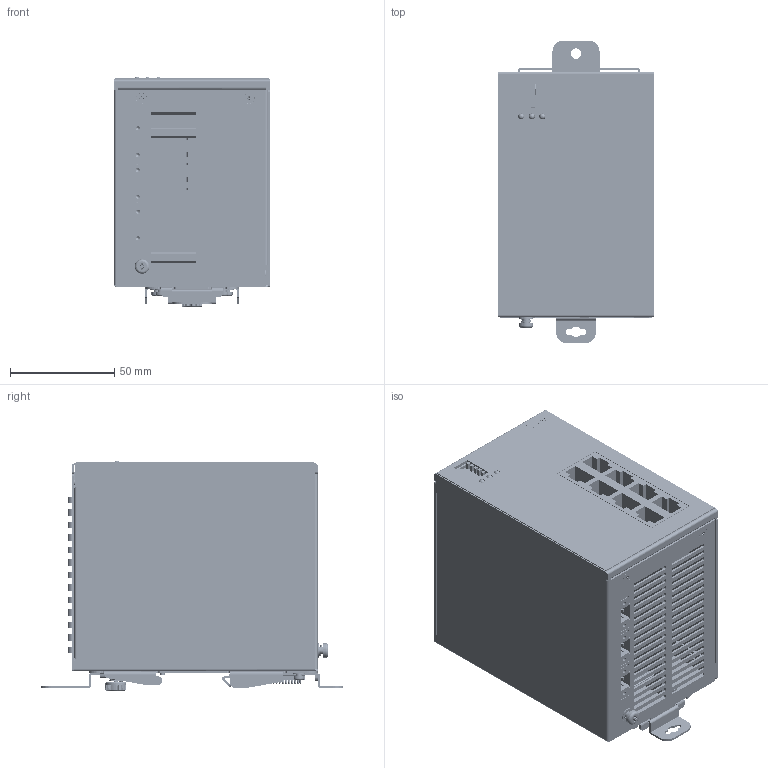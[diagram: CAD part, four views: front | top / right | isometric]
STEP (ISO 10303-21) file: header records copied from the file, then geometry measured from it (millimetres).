
FILE_DESCRIPTION((''),'2;1');
FILE_NAME('DVS-008W01_ASM','2014-12-08T',('ANDREW.AS.SUN'),(''),'PRO/ENGINEER BY PARAMETRIC TECHNOLOGY CORPORATION, 2010280','PRO/ENGINEER BY PARAMETRIC TECHNOLOGY CORPORATION, 2010280','');
FILE_SCHEMA(('CONFIG_CONTROL_DESIGN'));
Products named in the file (28): BASE-8P; COVER-8P; PANEL-8P; PCB-M-8P; STAND_OFF_30; MSD32_MALE; TB293; DIN-SWITCH-5PIN; 1X3_G-G; PCB-M-8P_ASM; PCB-M-16P; MSD232_FEMALE; 307234467C; PCB-M-16P_ASM; NAMEPLATE; 3105460500; LOGO-2; STUD_M3_0-S; SCREW_M4; BACK_PLATE_2; SNAP; SPRING; SNAP_2; 46-111-501-1_20100903_; SNAP2_ASM; 3100320300-SCREW; STUD_M3_0; DVS-008W01_ASM
Assembly tree (46 placements, depth 3):
  DVS-008W01_ASM
    BASE-8P
    COVER-8P
    PANEL-8P
    PCB-M-8P_ASM
      PCB-M-8P
      STAND_OFF_30  x4
      MSD32_MALE
      TB293  x3
      DIN-SWITCH-5PIN
      1X3_G-G
    PCB-M-16P_ASM
      PCB-M-16P
      MSD232_FEMALE
      307234467C
    NAMEPLATE
    3105460500  x10
    LOGO-2
    STUD_M3_0-S  x2
    SCREW_M4
    BACK_PLATE_2
    SNAP
    SPRING
    SNAP2_ASM
      SNAP_2
      46-111-501-1_20100903_
    3100320300-SCREW  x4
    STUD_M3_0  x2
Bounding box: 75 x 145.3 x 110.62 mm (x, y, z)
Volume: 144054.6 mm3; surface area: 215665.2 mm2
Topology: 49 solids, 60 shells, 4680 faces, 11749 edges, 7294 vertices
Faces by surface type: plane 2744, cylinder 1386, bspline 293, cone 146, extrusion 53, torus 52, sphere 6
Entity records: 128744 total; most frequent: CARTESIAN_POINT 40137, ORIENTED_EDGE 18337, DIRECTION 17804, EDGE_CURVE 9198, VECTOR 6486, LINE 6433, VERTEX_POINT 5681, AXIS2_PLACEMENT_3D 5659
